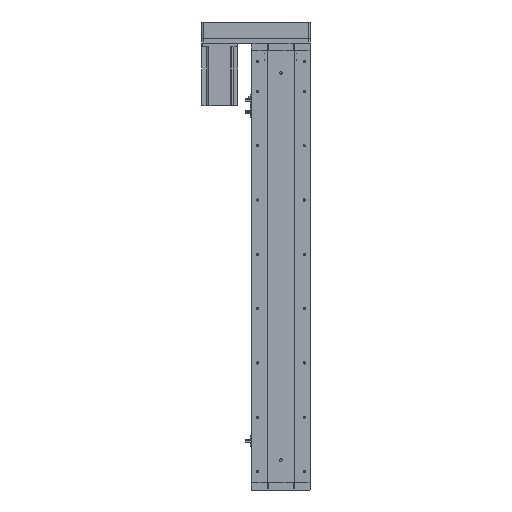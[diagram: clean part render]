
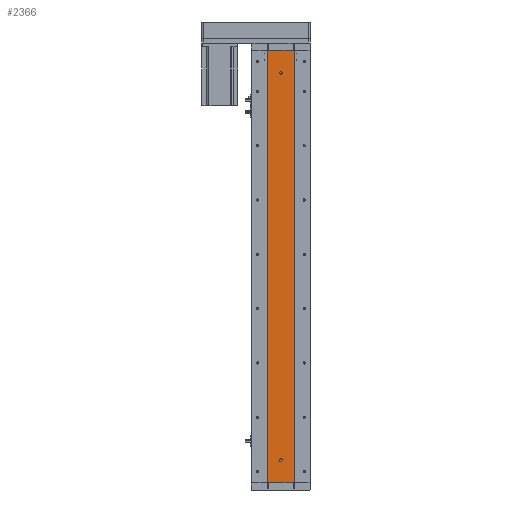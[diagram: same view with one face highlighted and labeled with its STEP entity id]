
A CAD part, left-side view. The second image highlights one B-rep face of the part: STEP entity #2366.
In plain terms, the highlighted planar face has unit normal (-1, 0, 0).
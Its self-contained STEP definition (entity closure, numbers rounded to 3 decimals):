
#118 = DIRECTION ( 'NONE',  ( -1., 0., 0. ) ) ;
#870 = CIRCLE ( 'NONE', #20535, 3. ) ;
#882 = DIRECTION ( 'NONE',  ( 0., 0., 1. ) ) ;
#1429 = DIRECTION ( 'NONE',  ( 0., 0., -1. ) ) ;
#2366 = ADVANCED_FACE ( 'NONE', ( #3263, #41760, #23184 ), #6142, .F. ) ;
#2923 = CARTESIAN_POINT ( 'NONE',  ( -24.994, 0., 47. ) ) ;
#3146 = ORIENTED_EDGE ( 'NONE', *, *, #9512, .F. ) ;
#3263 = FACE_BOUND ( 'NONE', #11022, .T. ) ;
#3419 = EDGE_CURVE ( 'NONE', #28434, #13511, #21240, .T. ) ;
#3629 = CIRCLE ( 'NONE', #19814, 3. ) ;
#4011 = EDGE_CURVE ( 'NONE', #35690, #45737, #19346, .T. ) ;
#4954 = ORIENTED_EDGE ( 'NONE', *, *, #4011, .F. ) ;
#5065 = CARTESIAN_POINT ( 'NONE',  ( -24.994, -29.785, 956. ) ) ;
#6142 = PLANE ( 'NONE',  #42344 ) ;
#7110 = LINE ( 'NONE', #34946, #45635 ) ;
#7135 = EDGE_CURVE ( 'NONE', #47353, #24764, #3629, .T. ) ;
#7546 = EDGE_LOOP ( 'NONE', ( #19098, #35791, #4954, #34919 ) ) ;
#8100 = CARTESIAN_POINT ( 'NONE',  ( -24.994, 29.785, 956. ) ) ;
#8306 = DIRECTION ( 'NONE',  ( -1., 0., 0. ) ) ;
#8920 = DIRECTION ( 'NONE',  ( 0., 0., -1. ) ) ;
#9325 = VECTOR ( 'NONE', #11842, 1000. ) ;
#9512 = EDGE_CURVE ( 'NONE', #24764, #47353, #35954, .T. ) ;
#9634 = ORIENTED_EDGE ( 'NONE', *, *, #7135, .F. ) ;
#11022 = EDGE_LOOP ( 'NONE', ( #22065, #30636 ) ) ;
#11842 = DIRECTION ( 'NONE',  ( 0., -1., 0. ) ) ;
#12292 = CARTESIAN_POINT ( 'NONE',  ( -24.994, 29.785, 956. ) ) ;
#13511 = VERTEX_POINT ( 'NONE', #34718 ) ;
#15548 = EDGE_CURVE ( 'NONE', #26080, #28891, #20270, .T. ) ;
#17213 = DIRECTION ( 'NONE',  ( 0., -1., 0. ) ) ;
#19098 = ORIENTED_EDGE ( 'NONE', *, *, #3419, .T. ) ;
#19346 = LINE ( 'NONE', #8100, #9325 ) ;
#19814 = AXIS2_PLACEMENT_3D ( 'NONE', #30774, #8306, #34547 ) ;
#20270 = CIRCLE ( 'NONE', #44801, 3. ) ;
#20325 = LINE ( 'NONE', #35172, #30252 ) ;
#20535 = AXIS2_PLACEMENT_3D ( 'NONE', #45529, #23311, #882 ) ;
#21240 = LINE ( 'NONE', #39540, #32354 ) ;
#22065 = ORIENTED_EDGE ( 'NONE', *, *, #36283, .F. ) ;
#22233 = CARTESIAN_POINT ( 'NONE',  ( -24.994, 0., 50. ) ) ;
#22502 = CARTESIAN_POINT ( 'NONE',  ( -24.994, 29.785, 956. ) ) ;
#22527 = CARTESIAN_POINT ( 'NONE',  ( -24.994, 0., 906. ) ) ;
#22825 = DIRECTION ( 'NONE',  ( 1., 0., 0. ) ) ;
#23056 = DIRECTION ( 'NONE',  ( 0., 0., -1. ) ) ;
#23184 = FACE_OUTER_BOUND ( 'NONE', #7546, .T. ) ;
#23311 = DIRECTION ( 'NONE',  ( -1., 0., 0. ) ) ;
#24764 = VERTEX_POINT ( 'NONE', #2923 ) ;
#25945 = CARTESIAN_POINT ( 'NONE',  ( -24.994, 0., 909. ) ) ;
#25989 = DIRECTION ( 'NONE',  ( 0., 0., 1. ) ) ;
#26080 = VERTEX_POINT ( 'NONE', #31199 ) ;
#26299 = DIRECTION ( 'NONE',  ( 0., 0., 1. ) ) ;
#28434 = VERTEX_POINT ( 'NONE', #33999 ) ;
#28891 = VERTEX_POINT ( 'NONE', #25945 ) ;
#30252 = VECTOR ( 'NONE', #8920, 1000. ) ;
#30636 = ORIENTED_EDGE ( 'NONE', *, *, #15548, .F. ) ;
#30774 = CARTESIAN_POINT ( 'NONE',  ( -24.994, 0., 50. ) ) ;
#31199 = CARTESIAN_POINT ( 'NONE',  ( -24.994, 0., 903. ) ) ;
#31593 = CARTESIAN_POINT ( 'NONE',  ( -24.994, 0., 53. ) ) ;
#32354 = VECTOR ( 'NONE', #17213, 1000. ) ;
#33999 = CARTESIAN_POINT ( 'NONE',  ( -24.994, 29.785, 0. ) ) ;
#34547 = DIRECTION ( 'NONE',  ( 0., 0., 1. ) ) ;
#34718 = CARTESIAN_POINT ( 'NONE',  ( -24.994, -29.785, 0. ) ) ;
#34919 = ORIENTED_EDGE ( 'NONE', *, *, #39680, .T. ) ;
#34946 = CARTESIAN_POINT ( 'NONE',  ( -24.994, -29.785, 956. ) ) ;
#35172 = CARTESIAN_POINT ( 'NONE',  ( -24.994, 29.785, 956. ) ) ;
#35690 = VERTEX_POINT ( 'NONE', #12292 ) ;
#35791 = ORIENTED_EDGE ( 'NONE', *, *, #37445, .F. ) ;
#35954 = CIRCLE ( 'NONE', #40855, 3. ) ;
#36283 = EDGE_CURVE ( 'NONE', #28891, #26080, #870, .T. ) ;
#37445 = EDGE_CURVE ( 'NONE', #45737, #13511, #7110, .T. ) ;
#39540 = CARTESIAN_POINT ( 'NONE',  ( -24.994, 29.785, 0. ) ) ;
#39680 = EDGE_CURVE ( 'NONE', #35690, #28434, #20325, .T. ) ;
#40855 = AXIS2_PLACEMENT_3D ( 'NONE', #22233, #48190, #25989 ) ;
#41760 = FACE_BOUND ( 'NONE', #42019, .T. ) ;
#42019 = EDGE_LOOP ( 'NONE', ( #9634, #3146 ) ) ;
#42344 = AXIS2_PLACEMENT_3D ( 'NONE', #22502, #22825, #23056 ) ;
#44801 = AXIS2_PLACEMENT_3D ( 'NONE', #22527, #118, #26299 ) ;
#45529 = CARTESIAN_POINT ( 'NONE',  ( -24.994, 0., 906. ) ) ;
#45635 = VECTOR ( 'NONE', #1429, 1000. ) ;
#45737 = VERTEX_POINT ( 'NONE', #5065 ) ;
#47353 = VERTEX_POINT ( 'NONE', #31593 ) ;
#48190 = DIRECTION ( 'NONE',  ( -1., 0., 0. ) ) ;
